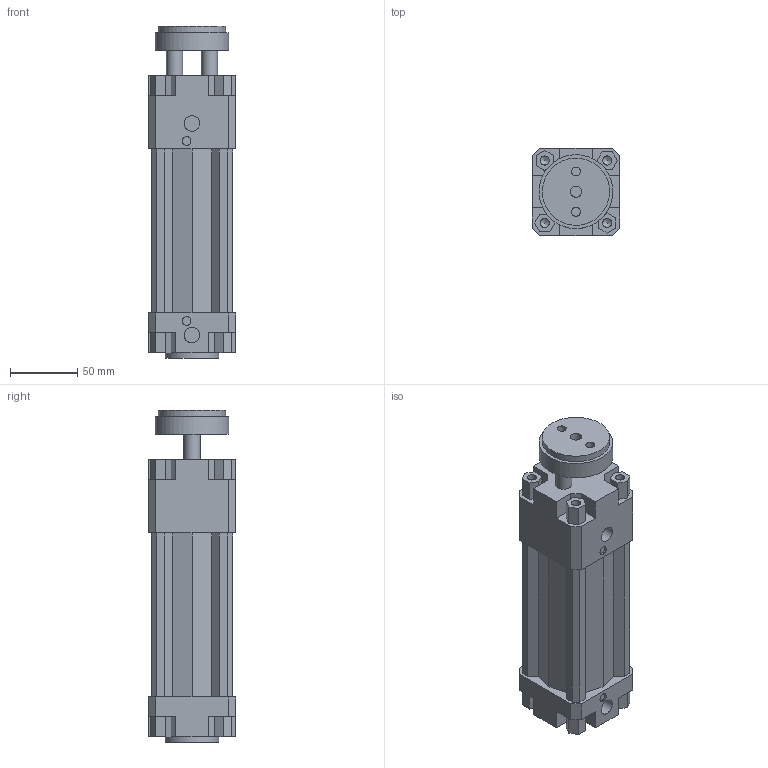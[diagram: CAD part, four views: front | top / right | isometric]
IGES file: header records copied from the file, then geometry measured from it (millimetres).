
Global section: file name: 134#_050_0075_01; native system: Autodesk Inventor 2014; preprocessor: unknown; author: A. Manieri; date: 20161006.164324; units: millimetre
Bounding box: 65 x 65 x 247 mm (x, y, z)
Volume: 602511.5 mm3; surface area: 130424.9 mm2
Topology: 2 solids, 2 shells, 180 faces, 492 edges, 336 vertices
Faces by surface type: bspline 180
